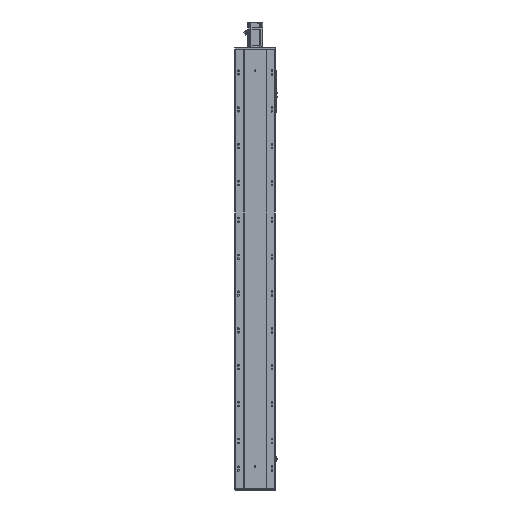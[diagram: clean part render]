
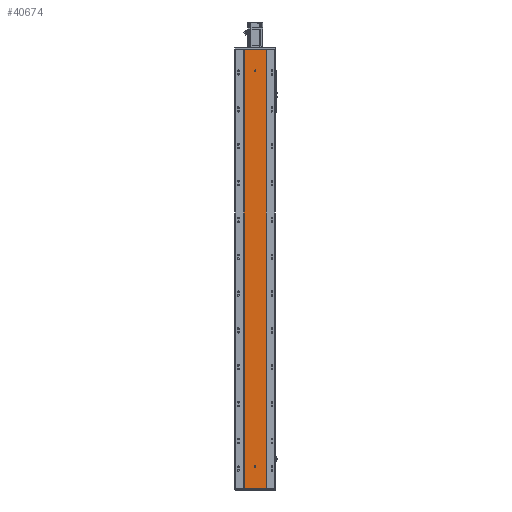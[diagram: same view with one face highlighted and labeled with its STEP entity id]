
A CAD part, front view. The second image highlights one B-rep face of the part: STEP entity #40674.
In plain terms, the highlighted planar face has unit normal (0, -1, 0).
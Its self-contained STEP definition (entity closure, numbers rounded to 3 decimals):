
#356 = ORIENTED_EDGE ( 'NONE', *, *, #67137, .F. ) ;
#653 = DIRECTION ( 'NONE',  ( 0., 0., -1. ) ) ;
#1134 = CIRCLE ( 'NONE', #9458, 4. ) ;
#2317 = CARTESIAN_POINT ( 'NONE',  ( 4., 0., 116.5 ) ) ;
#2614 = CARTESIAN_POINT ( 'NONE',  ( -60., 0., 2382. ) ) ;
#3161 = ORIENTED_EDGE ( 'NONE', *, *, #77340, .F. ) ;
#3177 = CARTESIAN_POINT ( 'NONE',  ( 60., 0., 0. ) ) ;
#5102 = CARTESIAN_POINT ( 'NONE',  ( 0., 0., 2264. ) ) ;
#6588 = DIRECTION ( 'NONE',  ( 0., -1., 0. ) ) ;
#6862 = VERTEX_POINT ( 'NONE', #3177 ) ;
#6937 = DIRECTION ( 'NONE',  ( 0., 0., 1. ) ) ;
#7553 = DIRECTION ( 'NONE',  ( 0., -1., 0. ) ) ;
#7958 = EDGE_LOOP ( 'NONE', ( #76329, #16615 ) ) ;
#9458 = AXIS2_PLACEMENT_3D ( 'NONE', #43585, #6588, #653 ) ;
#9843 = VECTOR ( 'NONE', #63157, 1000. ) ;
#12362 = VECTOR ( 'NONE', #70623, 1000. ) ;
#12586 = CARTESIAN_POINT ( 'NONE',  ( -60., 0., 0. ) ) ;
#12648 = ORIENTED_EDGE ( 'NONE', *, *, #31460, .F. ) ;
#13226 = EDGE_LOOP ( 'NONE', ( #60991, #3161, #23564, #28993 ) ) ;
#14268 = CARTESIAN_POINT ( 'NONE',  ( -60., 0., 0. ) ) ;
#15729 = DIRECTION ( 'NONE',  ( 0., 0., -1. ) ) ;
#15981 = CARTESIAN_POINT ( 'NONE',  ( 60., 0., 2382. ) ) ;
#16486 = VERTEX_POINT ( 'NONE', #2317 ) ;
#16615 = ORIENTED_EDGE ( 'NONE', *, *, #78856, .F. ) ;
#18151 = CARTESIAN_POINT ( 'NONE',  ( -4., 0., 116.5 ) ) ;
#18312 = VECTOR ( 'NONE', #26728, 1000. ) ;
#20120 = EDGE_CURVE ( 'NONE', #58817, #30407, #44757, .T. ) ;
#23164 = ORIENTED_EDGE ( 'NONE', *, *, #53182, .F. ) ;
#23564 = ORIENTED_EDGE ( 'NONE', *, *, #48868, .F. ) ;
#23634 = EDGE_CURVE ( 'NONE', #49257, #6862, #69708, .T. ) ;
#25696 = DIRECTION ( 'NONE',  ( 0., 0., -1. ) ) ;
#26256 = LINE ( 'NONE', #51196, #9843 ) ;
#26728 = DIRECTION ( 'NONE',  ( 1., 0., 0. ) ) ;
#26957 = AXIS2_PLACEMENT_3D ( 'NONE', #43182, #67403, #43708 ) ;
#27690 = DIRECTION ( 'NONE',  ( 0., 0., -1. ) ) ;
#27902 = DIRECTION ( 'NONE',  ( 0., -1., 0. ) ) ;
#27917 = CIRCLE ( 'NONE', #46987, 4. ) ;
#28973 = CARTESIAN_POINT ( 'NONE',  ( 0., 0., 2268. ) ) ;
#28993 = ORIENTED_EDGE ( 'NONE', *, *, #42366, .T. ) ;
#29219 = VERTEX_POINT ( 'NONE', #45665 ) ;
#30407 = VERTEX_POINT ( 'NONE', #41698 ) ;
#30869 = DIRECTION ( 'NONE',  ( 0., 0., -1. ) ) ;
#30963 = PLANE ( 'NONE',  #58823 ) ;
#31033 = LINE ( 'NONE', #32435, #64989 ) ;
#31460 = EDGE_CURVE ( 'NONE', #57964, #45856, #48234, .T. ) ;
#32109 = DIRECTION ( 'NONE',  ( 0., 0., -1. ) ) ;
#32324 = LINE ( 'NONE', #58535, #56562 ) ;
#32435 = CARTESIAN_POINT ( 'NONE',  ( -4., 0., 116.5 ) ) ;
#35334 = DIRECTION ( 'NONE',  ( 0., 0., -1. ) ) ;
#36123 = EDGE_LOOP ( 'NONE', ( #23164, #69980, #12648, #40739, #356 ) ) ;
#36133 = EDGE_CURVE ( 'NONE', #29219, #57964, #31033, .T. ) ;
#37546 = CARTESIAN_POINT ( 'NONE',  ( 4., 0., 119.5 ) ) ;
#40674 = ADVANCED_FACE ( 'NONE', ( #76952, #63416, #64381 ), #30963, .F. ) ;
#40739 = ORIENTED_EDGE ( 'NONE', *, *, #36133, .F. ) ;
#41698 = CARTESIAN_POINT ( 'NONE',  ( 0., 0., 2272. ) ) ;
#42366 = EDGE_CURVE ( 'NONE', #43601, #49257, #71884, .T. ) ;
#43182 = CARTESIAN_POINT ( 'NONE',  ( 0., 0., 119.5 ) ) ;
#43585 = CARTESIAN_POINT ( 'NONE',  ( 0., 0., 2268. ) ) ;
#43601 = VERTEX_POINT ( 'NONE', #2614 ) ;
#43708 = DIRECTION ( 'NONE',  ( 0., 0., -1. ) ) ;
#43941 = DIRECTION ( 'NONE',  ( 0., 1., 0. ) ) ;
#44757 = CIRCLE ( 'NONE', #75482, 4. ) ;
#45665 = CARTESIAN_POINT ( 'NONE',  ( -4., 0., 119.5 ) ) ;
#45856 = VERTEX_POINT ( 'NONE', #79748 ) ;
#46987 = AXIS2_PLACEMENT_3D ( 'NONE', #63823, #7553, #32109 ) ;
#47765 = CARTESIAN_POINT ( 'NONE',  ( 0., 0., 116.5 ) ) ;
#48164 = LINE ( 'NONE', #75495, #12362 ) ;
#48234 = CIRCLE ( 'NONE', #48547, 4. ) ;
#48547 = AXIS2_PLACEMENT_3D ( 'NONE', #47765, #66774, #35334 ) ;
#48868 = EDGE_CURVE ( 'NONE', #43601, #79096, #48164, .T. ) ;
#49257 = VERTEX_POINT ( 'NONE', #12586 ) ;
#51196 = CARTESIAN_POINT ( 'NONE',  ( 4., 0., 116.5 ) ) ;
#52531 = VERTEX_POINT ( 'NONE', #37546 ) ;
#53182 = EDGE_CURVE ( 'NONE', #16486, #52531, #26256, .T. ) ;
#56562 = VECTOR ( 'NONE', #27690, 1000. ) ;
#57964 = VERTEX_POINT ( 'NONE', #18151 ) ;
#58535 = CARTESIAN_POINT ( 'NONE',  ( 60., 0., 2382. ) ) ;
#58817 = VERTEX_POINT ( 'NONE', #5102 ) ;
#58823 = AXIS2_PLACEMENT_3D ( 'NONE', #75142, #43941, #6937 ) ;
#60991 = ORIENTED_EDGE ( 'NONE', *, *, #23634, .T. ) ;
#63157 = DIRECTION ( 'NONE',  ( 0., 0., 1. ) ) ;
#63416 = FACE_BOUND ( 'NONE', #36123, .T. ) ;
#63823 = CARTESIAN_POINT ( 'NONE',  ( 0., 0., 116.5 ) ) ;
#64381 = FACE_OUTER_BOUND ( 'NONE', #13226, .T. ) ;
#64989 = VECTOR ( 'NONE', #25696, 1000. ) ;
#66131 = CIRCLE ( 'NONE', #26957, 4. ) ;
#66774 = DIRECTION ( 'NONE',  ( 0., -1., 0. ) ) ;
#67137 = EDGE_CURVE ( 'NONE', #52531, #29219, #66131, .T. ) ;
#67403 = DIRECTION ( 'NONE',  ( 0., -1., 0. ) ) ;
#68976 = VECTOR ( 'NONE', #30869, 1000. ) ;
#69708 = LINE ( 'NONE', #14268, #18312 ) ;
#69980 = ORIENTED_EDGE ( 'NONE', *, *, #73702, .F. ) ;
#70623 = DIRECTION ( 'NONE',  ( 1., 0., 0. ) ) ;
#71884 = LINE ( 'NONE', #74003, #68976 ) ;
#73702 = EDGE_CURVE ( 'NONE', #45856, #16486, #27917, .T. ) ;
#74003 = CARTESIAN_POINT ( 'NONE',  ( -60., 0., 2382. ) ) ;
#75142 = CARTESIAN_POINT ( 'NONE',  ( -60., 0., 2382. ) ) ;
#75482 = AXIS2_PLACEMENT_3D ( 'NONE', #28973, #27902, #15729 ) ;
#75495 = CARTESIAN_POINT ( 'NONE',  ( -60., 0., 2382. ) ) ;
#76329 = ORIENTED_EDGE ( 'NONE', *, *, #20120, .F. ) ;
#76952 = FACE_BOUND ( 'NONE', #7958, .T. ) ;
#77340 = EDGE_CURVE ( 'NONE', #79096, #6862, #32324, .T. ) ;
#78856 = EDGE_CURVE ( 'NONE', #30407, #58817, #1134, .T. ) ;
#79096 = VERTEX_POINT ( 'NONE', #15981 ) ;
#79748 = CARTESIAN_POINT ( 'NONE',  ( 0., 0., 112.5 ) ) ;
